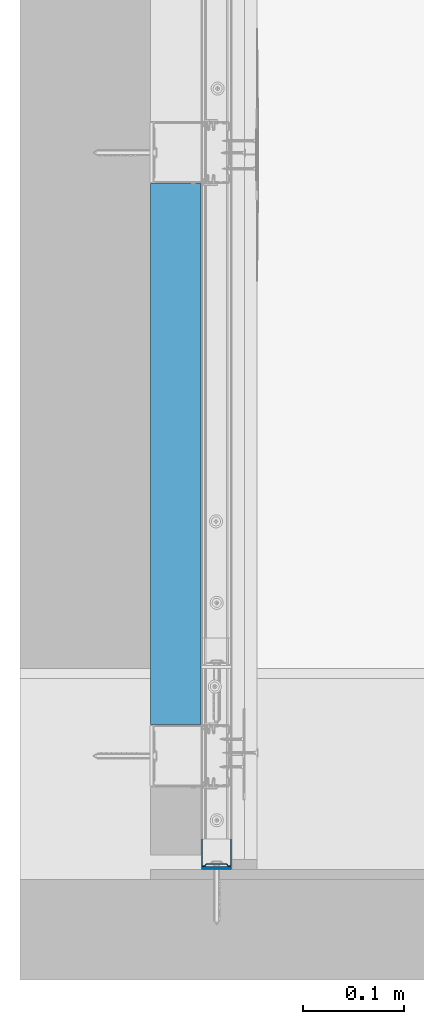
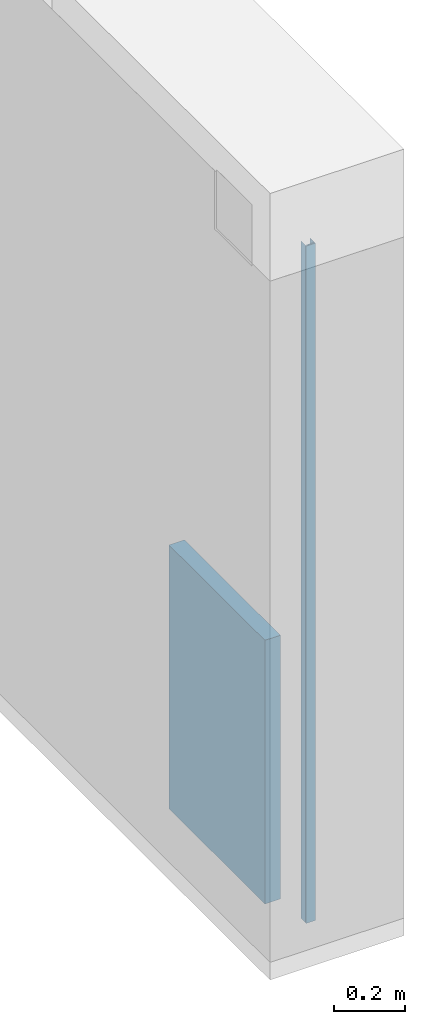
# One storey, part 3 of 62: 3 walls.
"""IFC2X3 building model written with IfcOpenShell, lengths in millimetres."""

from ifc_helpers import new_model, si_unit, frame, origin_with_axes, place, context, subcontext, project, spatial, faceted_brep, material, type_object, element, save


model = new_model("IFC2X3")

# Units and contexts
model_context = context("Model", 3, world=origin_with_axes())
body_context = subcontext(model_context, "Body", "Model", "MODEL_VIEW")
ifc_project = project(units=[si_unit("LENGTHUNIT", "METRE", prefix="MILLI"), si_unit("AREAUNIT", "SQUARE_METRE"), si_unit("VOLUMEUNIT", "CUBIC_METRE")], contexts=[model_context])

# Site, building, storey
site_placement = place(None, frame((2152.14102611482, -2015.0250894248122, 57.61556563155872), z_axis=(0.0, 0.0, 1.0), x_axis=(-1.1102230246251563e-16, 1.0, 0.0)))
site = spatial("IfcSite", under=ifc_project, at=site_placement, Name="Default Site", CompositionType="ELEMENT")
building_placement = place(site_placement, origin_with_axes())
building = spatial("IfcBuilding", under=site, at=building_placement, Name="Default Building", CompositionType="ELEMENT")
storey_placement = place(building_placement, origin_with_axes())
storey = spatial("IfcBuildingStorey", under=building, at=storey_placement, Name="Default Building Storey", CompositionType="ELEMENT", Elevation=57.61556563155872)

# Walls
ifc_material_1 = material(Name="Undefined")
wall_type_1 = type_object("IfcWallType", Name="Wypełnienie z wełny mineralnej szklanej ISOVER#5", PredefinedType="NOTDEFINED")
wall_1_placement = place(storey_placement, frame((2102.576545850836, 5350.424146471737, -7.9000002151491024), z_axis=(0.0, 0.0, 1.0), x_axis=(-1.0, 4.718447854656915e-16, 0.0)))
element("IfcWall", 1, at=wall_1_placement, inside=storey, type_object=wall_type_1, material=ifc_material_1, Name="Wypełnienie z wełny mineralnej szklanej ISOVER", context=body_context, shape_type="Brep", body=[
    faceted_brep([(-166.46054244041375, 3328.2832634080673, 10.28402615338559), (-166.46054244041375, 3378.2831687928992, 10.28402615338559), (-166.46054244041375, 3378.2831687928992, 911.5436077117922), (-166.46054244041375, 3328.2832634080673, 911.5436077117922), (-704.4605239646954, 3378.2831687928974, 911.5436077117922), (-704.4605239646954, 3378.2831687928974, 10.28402615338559), (-704.4605239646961, 3328.283263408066, 10.28402615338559), (-704.4605239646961, 3328.283263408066, 911.5436077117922)], [[[0, 1, 2, 3]], [[4, 2, 1, 5]], [[5, 1, 0, 6]], [[6, 0, 3, 7]]]),
    faceted_brep([(-704.4605239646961, 3328.283263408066, 911.5436077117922), (-704.4605239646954, 3378.2831687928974, 911.5436077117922), (-704.4605239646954, 3378.2831687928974, 10.28402615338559), (-704.4605239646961, 3328.283263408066, 10.28402615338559), (-166.46054244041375, 3328.2832634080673, 911.5436077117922), (-166.46054244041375, 3378.2831687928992, 911.5436077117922)], [[[0, 1, 2, 3]], [[0, 4, 5, 1]]]),
])
ifc_material_2 = material(Name="Undefined9")
wall_type_2 = type_object("IfcWallType", Name="Profil RIGIPS UD 30 GypSerra®/Ultrastil®#1", PredefinedType="NOTDEFINED")
wall_2_placement = place(storey_placement, frame((2014.0500851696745, 472.86017491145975, 2903.5735859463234), z_axis=(1.0, 6.860037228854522e-13, 6.133982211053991e-14), x_axis=(6.133982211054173e-14, -2.6462982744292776e-15, -1.0)))
element("IfcWall", 2, at=wall_2_placement, inside=storey, type_object=wall_type_2, material=ifc_material_2, Name="Profil RIGIPS UD 30 GypSerra®/Ultrastil®", context=body_context, shape_type="Brep", body=[
    faceted_brep([(2898.189556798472, 1469.9159860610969, 140.97499847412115), (2898.189556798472, 1469.366073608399, 140.97499847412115), (2898.18955679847, 1469.3660736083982, 114.77500200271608), (2898.189556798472, 1469.3758487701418, 114.64985460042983), (2898.189556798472, 1469.405174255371, 114.52778428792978), (2898.189556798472, 1469.4532155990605, 114.41180855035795), (2898.189556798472, 1469.5187807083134, 114.30477350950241), (2898.189556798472, 1469.6003198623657, 114.20931667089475), (2898.1895567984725, 1469.6958065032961, 114.12778496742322), (2898.1895567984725, 1469.802856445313, 114.06219750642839), (2898.1895567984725, 1469.9188470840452, 114.01415616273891), (2898.1895567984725, 1470.0409173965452, 113.98485302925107), (2898.1895567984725, 1470.1660871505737, 113.97500336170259), (2898.1895567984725, 1472.0159769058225, 113.97500336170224), (2898.1895567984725, 1472.1635580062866, 113.98871988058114), (2898.1895567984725, 1472.3060131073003, 114.0294075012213), (2898.1895567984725, 1472.438573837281, 114.09565806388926), (2898.189556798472, 1472.5565910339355, 114.1852140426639), (2898.1895567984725, 1472.6560115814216, 114.29499834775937), (2898.1895567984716, 1473.6760854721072, 115.6549975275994), (2898.1895567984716, 1473.7755060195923, 115.7647818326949), (2898.1895567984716, 1473.8935232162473, 115.8543378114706), (2898.189556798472, 1474.026083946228, 115.92059582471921), (2898.189556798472, 1474.1685390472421, 115.96128344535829), (2898.189556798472, 1474.316000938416, 115.9749999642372), (2898.1895567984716, 1493.6159849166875, 115.9749999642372), (2898.1895567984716, 1493.7635660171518, 115.96128344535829), (2898.1895567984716, 1493.9060211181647, 115.92059582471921), (2898.1895567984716, 1494.0385818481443, 115.8543378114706), (2898.1895567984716, 1494.1565990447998, 115.76478183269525), (2898.1895567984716, 1494.2560195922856, 115.6549975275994), (2898.1895567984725, 1495.275974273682, 114.29499834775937), (2898.1895567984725, 1495.3755140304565, 114.18521404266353), (2898.1895567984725, 1495.4935312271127, 114.09565806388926), (2898.1895567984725, 1495.626091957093, 114.0294075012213), (2898.1895567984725, 1495.7685470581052, 113.98871988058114), (2898.1895567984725, 1495.9160089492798, 113.97500336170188), (2898.1895567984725, 1497.7660179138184, 113.97500336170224), (2898.1895567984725, 1497.8911876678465, 113.98485302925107), (2898.1895567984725, 1498.0132579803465, 114.01415616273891), (2898.1895567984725, 1498.12924861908, 114.06219750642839), (2898.1895567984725, 1498.2362985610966, 114.12778496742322), (2898.1895567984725, 1498.3316659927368, 114.20931667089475), (2898.1895567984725, 1498.41320514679, 114.30477350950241), (2898.1895567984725, 1498.4788894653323, 114.41180855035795), (2898.1895567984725, 1498.5269308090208, 114.52778428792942), (2898.1895567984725, 1498.5561370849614, 114.64985460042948), (2898.189556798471, 1498.5660314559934, 114.77500200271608), (2898.189556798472, 1498.5660314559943, 140.97499847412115), (2898.189556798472, 1498.0159997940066, 140.97499847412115), (2898.189556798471, 1498.0159997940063, 114.77500200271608), (2898.1895567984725, 1498.012900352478, 114.73589390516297), (2898.1895567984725, 1498.0038404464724, 114.6977469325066), (2898.1895567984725, 1497.9888200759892, 114.66149985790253), (2898.1895567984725, 1497.9683160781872, 114.62805420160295), (2898.1895567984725, 1497.9428052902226, 114.59822207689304), (2898.1895567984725, 1497.913002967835, 114.572748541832), (2898.1895567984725, 1497.8795051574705, 114.55225199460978), (2898.1895567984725, 1497.843265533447, 114.53723907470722), (2898.1895567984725, 1497.8051185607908, 114.52807486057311), (2898.1895567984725, 1497.7660179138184, 114.52499777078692), (2898.1895567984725, 1495.9160089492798, 114.52499777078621), (2898.1895567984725, 1495.8698749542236, 114.5292893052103), (2898.1895567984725, 1495.825409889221, 114.54199999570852), (2898.1895567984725, 1495.7840442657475, 114.5627051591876), (2898.1895567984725, 1495.747089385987, 114.59068953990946), (2898.1895567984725, 1495.7159757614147, 114.62499946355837), (2898.1895567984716, 1494.6960210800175, 115.9849986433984), (2898.189556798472, 1494.52817440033, 116.17025732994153), (2898.1895567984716, 1494.3289756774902, 116.32138490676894), (2898.1895567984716, 1494.1053390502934, 116.43319576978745), (2898.1895567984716, 1493.8650131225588, 116.50185286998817), (2898.1895567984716, 1493.6159849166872, 116.52500182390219), (2898.189556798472, 1474.3160009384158, 116.52500182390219), (2898.189556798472, 1474.067091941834, 116.50185286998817), (2898.189556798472, 1473.8266468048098, 116.43319576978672), (2898.189556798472, 1473.6031293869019, 116.32138490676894), (2898.189556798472, 1473.403930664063, 116.17025732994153), (2898.189556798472, 1473.2360839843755, 115.9849986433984), (2898.189556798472, 1472.2160100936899, 114.62499946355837), (2898.189556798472, 1472.1848964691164, 114.59068953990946), (2898.189556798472, 1472.1480607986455, 114.56270515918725), (2898.189556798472, 1472.1066951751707, 114.54199999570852), (2898.189556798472, 1472.0621109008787, 114.5292893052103), (2898.189556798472, 1472.0159769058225, 114.52499777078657), (2898.189556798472, 1470.1660871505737, 114.52499777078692), (2898.189556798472, 1470.1268672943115, 114.52807486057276), (2898.189556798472, 1470.088720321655, 114.53723907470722), (2898.189556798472, 1470.0524806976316, 114.55225199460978), (2898.189556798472, 1470.019102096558, 114.572748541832), (2898.189556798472, 1469.98929977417, 114.59822207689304), (2898.189556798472, 1469.9637889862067, 114.62805420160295), (2898.189556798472, 1469.943284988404, 114.66149985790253), (2898.189556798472, 1469.9282646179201, 114.6977469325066), (2898.189556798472, 1469.9190855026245, 114.73589390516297), (2898.18955679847, 1469.915986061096, 114.77500200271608), (583.1791515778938, 1469.3660736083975, 114.77500200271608), (583.1791515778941, 1469.3660736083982, 140.97499847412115), (583.1791515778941, 1469.915986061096, 140.97499847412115), (583.1791515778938, 1469.9159860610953, 114.77500200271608), (583.1791515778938, 1469.9190855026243, 114.73589390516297), (583.1791515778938, 1469.9282646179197, 114.6977469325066), (583.1791515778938, 1469.943284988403, 114.66149985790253), (583.1791515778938, 1469.963788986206, 114.62805420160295), (583.1791515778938, 1469.9892997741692, 114.59822207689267), (583.1791515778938, 1470.019102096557, 114.572748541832), (583.1791515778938, 1470.0524806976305, 114.55225199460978), (583.1791515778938, 1470.0887203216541, 114.53723907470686), (583.1791515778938, 1470.1268672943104, 114.52807486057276), (583.1791515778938, 1470.1660871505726, 114.52499777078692), (583.1791515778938, 1472.0159769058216, 114.52499777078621), (583.1791515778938, 1472.0621109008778, 114.52928930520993), (583.1791515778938, 1472.1066951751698, 114.54199999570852), (583.1791515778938, 1472.1480607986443, 114.56270515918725), (583.1791515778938, 1472.1848964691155, 114.5906895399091), (583.1791515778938, 1472.216010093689, 114.62499946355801), (583.1791515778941, 1473.2360839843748, 115.98499864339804), (583.1791515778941, 1473.403930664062, 116.17025732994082), (583.1791515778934, 1473.6031293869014, 116.32138490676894), (583.1791515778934, 1473.826646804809, 116.43319576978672), (583.1791515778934, 1474.0670919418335, 116.50185286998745), (583.1791515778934, 1474.3160009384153, 116.52500182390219), (583.1791515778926, 1493.6159849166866, 116.52500182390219), (583.1791515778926, 1493.8650131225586, 116.50185286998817), (583.1791515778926, 1494.1053390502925, 116.43319576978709), (583.1791515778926, 1494.3289756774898, 116.32138490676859), (583.1791515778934, 1494.528174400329, 116.17025732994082), (583.1791515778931, 1494.6960210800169, 115.9849986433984), (583.1791515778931, 1495.7159757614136, 114.62499946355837), (583.1791515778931, 1495.7470893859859, 114.59068953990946), (583.1791515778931, 1495.7840442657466, 114.56270515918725), (583.1791515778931, 1495.82540988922, 114.54199999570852), (583.1791515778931, 1495.8698749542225, 114.52928930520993), (583.1791515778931, 1495.9160089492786, 114.52499777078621), (583.1791515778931, 1497.7660179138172, 114.52499777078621), (583.1791515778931, 1497.8051185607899, 114.52807486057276), (583.1791515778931, 1497.8432655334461, 114.53723907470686), (583.1791515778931, 1497.8795051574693, 114.55225199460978), (583.1791515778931, 1497.913002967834, 114.572748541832), (583.1791515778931, 1497.9428052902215, 114.59822207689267), (583.1791515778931, 1497.968316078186, 114.62805420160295), (583.1791515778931, 1497.9888200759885, 114.66149985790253), (583.1791515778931, 1498.0038404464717, 114.6977469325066), (583.1791515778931, 1498.0129003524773, 114.7358939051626), (583.1791515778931, 1498.0159997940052, 114.77500200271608), (583.1791515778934, 1498.0159997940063, 140.9749984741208), (583.1791515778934, 1498.5660314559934, 140.9749984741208), (583.1791515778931, 1498.5660314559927, 114.77500200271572), (583.1791515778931, 1498.5561370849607, 114.64985460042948), (583.1791515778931, 1498.5269308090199, 114.52778428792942), (583.1791515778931, 1498.4788894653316, 114.41180855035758), (583.1791515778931, 1498.4132051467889, 114.30477350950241), (583.1791515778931, 1498.3316659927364, 114.20931667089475), (583.1791515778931, 1498.236298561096, 114.1277849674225), (583.1791515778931, 1498.1292486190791, 114.06219750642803), (583.1791515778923, 1498.0132579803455, 114.01415616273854), (583.1791515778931, 1497.8911876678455, 113.98485302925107), (583.1791515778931, 1497.7660179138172, 113.97500336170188), (583.1791515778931, 1495.9160089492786, 113.97500336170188), (583.1791515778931, 1495.7685470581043, 113.98871988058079), (583.1791515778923, 1495.626091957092, 114.02940750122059), (583.1791515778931, 1495.4935312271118, 114.09565806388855), (583.1791515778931, 1495.375514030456, 114.18521404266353), (583.1791515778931, 1495.2759742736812, 114.29499834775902), (583.1791515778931, 1494.2560195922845, 115.6549975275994), (583.1791515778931, 1494.1565990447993, 115.7647818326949), (583.1791515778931, 1494.0385818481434, 115.85433781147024), (583.1791515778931, 1493.9060211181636, 115.92059582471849), (583.1791515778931, 1493.7635660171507, 115.96128344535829), (583.1791515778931, 1493.6159849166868, 115.9749999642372), (583.1791515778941, 1474.3160009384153, 115.9749999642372), (583.1791515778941, 1474.1685390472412, 115.96128344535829), (583.1791515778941, 1474.0260839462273, 115.92059582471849), (583.1791515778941, 1473.8935232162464, 115.8543378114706), (583.1791515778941, 1473.7755060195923, 115.7647818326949), (583.1791515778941, 1473.6760854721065, 115.6549975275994), (583.1791515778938, 1472.6560115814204, 114.29499834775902), (583.1791515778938, 1472.5565910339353, 114.18521404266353), (583.1791515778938, 1472.43857383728, 114.09565806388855), (583.1791515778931, 1472.3060131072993, 114.0294075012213), (583.1791515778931, 1472.1635580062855, 113.98871988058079), (583.1791515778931, 1472.0159769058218, 113.97500336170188), (583.1791515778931, 1470.1660871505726, 113.97500336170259), (583.1791515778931, 1470.0409173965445, 113.98485302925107), (583.1791515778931, 1469.9188470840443, 114.01415616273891), (583.1791515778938, 1469.802856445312, 114.06219750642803), (583.1791515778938, 1469.695806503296, 114.1277849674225), (583.1791515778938, 1469.6003198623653, 114.20931667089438), (583.1791515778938, 1469.5187807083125, 114.30477350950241), (583.1791515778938, 1469.4532155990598, 114.41180855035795), (583.1791515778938, 1469.40517425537, 114.52778428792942), (583.1791515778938, 1469.3758487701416, 114.64985460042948)], [[[0, 1, 2, 3, 4, 5, 6, 7, 8, 9, 10, 11, 12, 13, 14, 15, 16, 17, 18, 19, 20, 21, 22, 23, 24, 25, 26, 27, 28, 29, 30, 31, 32, 33, 34, 35, 36, 37, 38, 39, 40, 41, 42, 43, 44, 45, 46, 47, 48, 49, 50, 51, 52, 53, 54, 55, 56, 57, 58, 59, 60, 61, 62, 63, 64, 65, 66, 67, 68, 69, 70, 71, 72, 73, 74, 75, 76, 77, 78, 79, 80, 81, 82, 83, 84, 85, 86, 87, 88, 89, 90, 91, 92, 93, 94, 95]], [[96, 97, 98, 99, 100, 101, 102, 103, 104, 105, 106, 107, 108, 109, 110, 111, 112, 113, 114, 115, 116, 117, 118, 119, 120, 121, 122, 123, 124, 125, 126, 127, 128, 129, 130, 131, 132, 133, 134, 135, 136, 137, 138, 139, 140, 141, 142, 143, 144, 145, 146, 147, 148, 149, 150, 151, 152, 153, 154, 155, 156, 157, 158, 159, 160, 161, 162, 163, 164, 165, 166, 167, 168, 169, 170, 171, 172, 173, 174, 175, 176, 177, 178, 179, 180, 181, 182, 183, 184, 185, 186, 187, 188, 189, 190, 191]], [[23, 171, 170, 24]], [[22, 172, 171, 23]], [[175, 174, 20, 19]], [[172, 22, 21, 173]], [[20, 174, 173, 21]], [[24, 170, 169, 25]], [[29, 165, 164, 30]], [[165, 29, 28, 166]], [[27, 167, 166, 28]], [[169, 168, 26, 25]], [[26, 168, 167, 27]], [[30, 164, 163, 31]], [[35, 159, 158, 36]], [[34, 160, 159, 35]], [[33, 32, 162, 161]], [[161, 160, 34, 33]], [[163, 162, 32, 31]], [[36, 158, 157, 37]], [[46, 45, 149, 148]], [[148, 147, 47, 46]], [[44, 150, 149, 45]], [[43, 42, 152, 151]], [[151, 150, 44, 43]], [[41, 40, 154, 153]], [[153, 152, 42, 41]], [[39, 155, 154, 40]], [[38, 37, 157, 156]], [[156, 155, 39, 38]], [[47, 147, 146, 48]], [[48, 146, 145, 49]], [[49, 145, 144, 50]], [[134, 60, 59, 135]], [[58, 136, 135, 59]], [[57, 137, 136, 58]], [[137, 57, 56, 138]], [[55, 139, 138, 56]], [[139, 55, 54, 140]], [[53, 141, 140, 54]], [[52, 142, 141, 53]], [[142, 52, 51, 143]], [[50, 144, 143, 51]], [[60, 134, 133, 61]], [[65, 129, 128, 66]], [[129, 65, 64, 130]], [[63, 131, 130, 64]], [[133, 132, 62, 61]], [[62, 132, 131, 63]], [[66, 128, 127, 67]], [[71, 123, 122, 72]], [[70, 69, 125, 124]], [[124, 123, 71, 70]], [[68, 126, 125, 69]], [[127, 126, 68, 67]], [[72, 122, 121, 73]], [[77, 117, 116, 78]], [[76, 118, 117, 77]], [[75, 74, 120, 119]], [[119, 118, 76, 75]], [[121, 120, 74, 73]], [[78, 116, 115, 79]], [[83, 111, 110, 84]], [[82, 112, 111, 83]], [[115, 114, 80, 79]], [[112, 82, 81, 113]], [[80, 114, 113, 81]], [[84, 110, 109, 85]], [[99, 95, 94, 100]], [[93, 101, 100, 94]], [[92, 102, 101, 93]], [[102, 92, 91, 103]], [[90, 104, 103, 91]], [[104, 90, 89, 105]], [[88, 106, 105, 89]], [[87, 107, 106, 88]], [[107, 87, 86, 108]], [[85, 109, 108, 86]], [[95, 99, 98, 0]], [[0, 98, 97, 1]], [[1, 97, 96, 2]], [[11, 10, 184, 183]], [[183, 182, 12, 11]], [[9, 185, 184, 10]], [[6, 5, 189, 188]], [[7, 6, 188, 187]], [[8, 7, 187, 186]], [[186, 185, 9, 8]], [[4, 190, 189, 5]], [[3, 2, 96, 191]], [[191, 190, 4, 3]], [[12, 182, 181, 13]], [[17, 177, 176, 18]], [[16, 15, 179, 178]], [[178, 177, 17, 16]], [[14, 180, 179, 15]], [[181, 180, 14, 13]], [[18, 176, 175, 19]]]),
])
ifc_material_3 = material(Name="Undefined13")
wall_type_3 = type_object("IfcWallType", Name="Taśma uszczelniająca piankowa RIGIPS#2", PredefinedType="NOTDEFINED")
wall_3_placement = place(storey_placement, frame((2014.0500912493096, 472.8602941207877, 3492.9105228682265), z_axis=(1.0, 6.860037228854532e-13, 6.150635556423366e-14), x_axis=(6.150635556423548e-14, -2.646298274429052e-15, -1.0)))
element("IfcWall", 3, at=wall_3_placement, inside=storey, type_object=wall_type_3, material=ifc_material_3, Name="Taśma uszczelniająca piankowa RIGIPS", context=body_context, shape_type="Brep", body=[
    faceted_brep([(1172.5160884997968, 1498.9659786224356, 113.97500336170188), (1172.5160884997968, 1498.9659786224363, 110.97499728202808), (1172.5160884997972, 1468.9660072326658, 110.97499728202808), (1172.5160884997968, 1468.966007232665, 113.97500336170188), (3487.5264937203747, 1498.9659786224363, 110.97499728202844), (3487.526493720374, 1498.9659786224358, 113.97500336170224), (3487.5264937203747, 1468.9660072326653, 113.97500336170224), (3487.5264937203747, 1468.9660072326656, 110.97499728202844)], [[[0, 1, 2, 3]], [[4, 5, 6, 7]], [[5, 0, 3, 6]], [[6, 3, 2, 7]], [[7, 2, 1, 4]], [[4, 1, 0, 5]]]),
])

save(model, "model.ifc")
